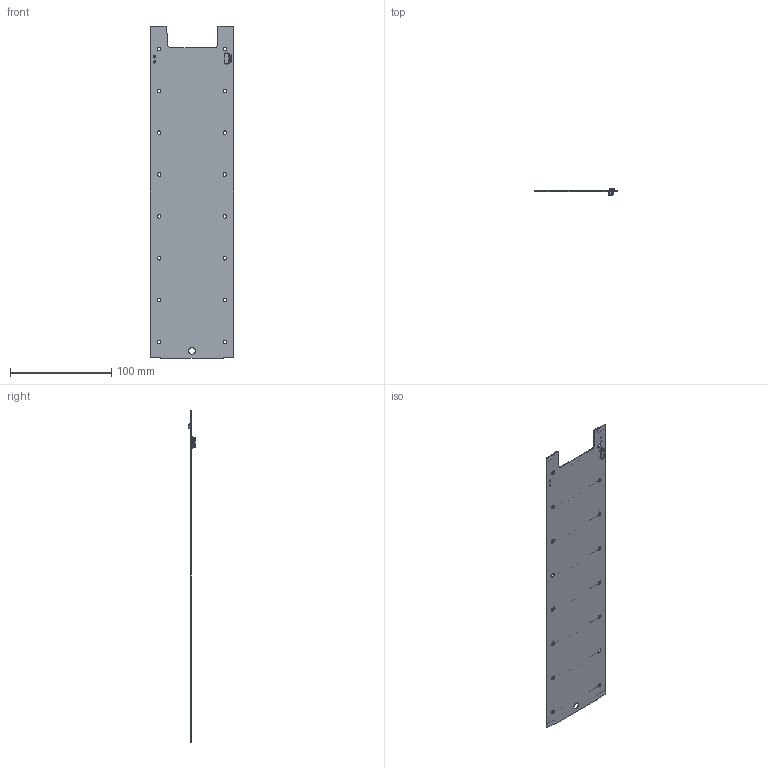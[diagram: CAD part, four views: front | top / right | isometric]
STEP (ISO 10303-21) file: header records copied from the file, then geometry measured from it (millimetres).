
FILE_DESCRIPTION (( 'STEP AP214' ), '1' );
FILE_NAME ('710-00771-B CSK 3U Fixed Front Solar Panel 031.STEP', '2019-06-03T16:43:59', ( '' ), ( '' ), 'SwSTEP 2.0', 'SolidWorks 2014', '' );
FILE_SCHEMA (( 'AUTOMOTIVE_DESIGN' ));
Length unit declared in the file: inch
Products named in the file (2): 710-00771-B CSK 3U Fixed Front Solar Panel 031
Bounding box: 82.55 x 6.14 x 327.51 mm (x, y, z)
Volume: 24381.2 mm3; surface area: 90707.1 mm2
Topology: 8 solids, 8 shells, 766 faces, 2092 edges, 1362 vertices
Faces by surface type: plane 581, cylinder 181, cone 4
Entity records: 29973 total; most frequent: CARTESIAN_POINT 4222, ORIENTED_EDGE 4184, DIRECTION 4000, EDGE_CURVE 2092, LINE 1720, VECTOR 1720, VERTEX_POINT 1362, AXIS2_PLACEMENT_3D 1140
